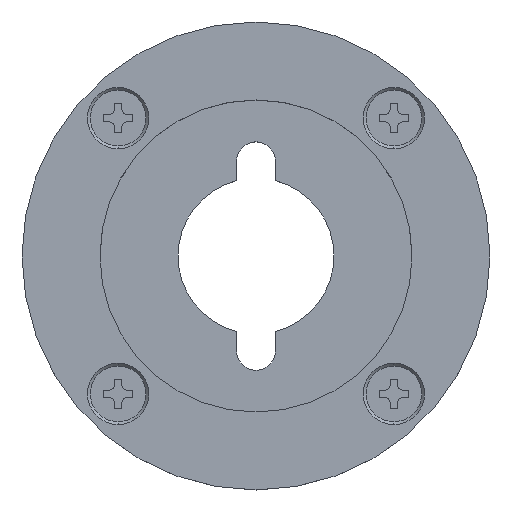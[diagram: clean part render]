
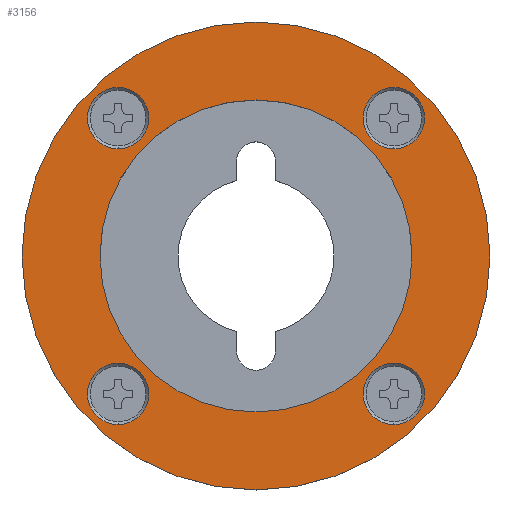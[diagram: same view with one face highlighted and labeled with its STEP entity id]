
A CAD part, top view. The second image highlights one B-rep face of the part: STEP entity #3156.
In plain terms, the highlighted planar face has unit normal (0, 0, 1).
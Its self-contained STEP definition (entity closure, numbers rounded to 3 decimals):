
#13 = CARTESIAN_POINT ( 'NONE',  ( 0., -21., 0. ) ) ;
#28 = CIRCLE ( 'NONE', #2273, 21. ) ;
#31 = CIRCLE ( 'NONE', #1448, 2.75 ) ;
#88 = EDGE_LOOP ( 'NONE', ( #2695, #3461 ) ) ;
#106 = DIRECTION ( 'NONE',  ( 0., 0., 1. ) ) ;
#122 = DIRECTION ( 'NONE',  ( 0., -1., 0. ) ) ;
#154 = DIRECTION ( 'NONE',  ( 0., -1., 0. ) ) ;
#156 = AXIS2_PLACEMENT_3D ( 'NONE', #4111, #2528, #3104 ) ;
#158 = VERTEX_POINT ( 'NONE', #4006 ) ;
#174 = DIRECTION ( 'NONE',  ( 0., 0., 1. ) ) ;
#204 = ORIENTED_EDGE ( 'NONE', *, *, #2803, .F. ) ;
#234 = ORIENTED_EDGE ( 'NONE', *, *, #1768, .F. ) ;
#277 = DIRECTION ( 'NONE',  ( 0., 0., 1. ) ) ;
#353 = EDGE_CURVE ( 'NONE', #2425, #3186, #3836, .T. ) ;
#388 = DIRECTION ( 'NONE',  ( 0., 0., -1. ) ) ;
#408 = ORIENTED_EDGE ( 'NONE', *, *, #3003, .F. ) ;
#428 = FACE_BOUND ( 'NONE', #2673, .T. ) ;
#462 = VERTEX_POINT ( 'NONE', #2896 ) ;
#469 = DIRECTION ( 'NONE',  ( 0., 1., 0. ) ) ;
#485 = CIRCLE ( 'NONE', #2887, 2.75 ) ;
#588 = DIRECTION ( 'NONE',  ( 0., -1., 0. ) ) ;
#599 = ORIENTED_EDGE ( 'NONE', *, *, #738, .T. ) ;
#616 = ORIENTED_EDGE ( 'NONE', *, *, #3877, .T. ) ;
#667 = ORIENTED_EDGE ( 'NONE', *, *, #353, .F. ) ;
#738 = EDGE_CURVE ( 'NONE', #158, #3126, #1381, .T. ) ;
#786 = PLANE ( 'NONE',  #2011 ) ;
#787 = DIRECTION ( 'NONE',  ( 0., 0., -1. ) ) ;
#847 = DIRECTION ( 'NONE',  ( 0., 0., 1. ) ) ;
#865 = EDGE_CURVE ( 'NONE', #2929, #1882, #28, .T. ) ;
#879 = CARTESIAN_POINT ( 'NONE',  ( -12.374, -15.124, 0. ) ) ;
#900 = CARTESIAN_POINT ( 'NONE',  ( -12.374, -9.624, 0. ) ) ;
#904 = CIRCLE ( 'NONE', #156, 2.75 ) ;
#927 = DIRECTION ( 'NONE',  ( 0., 0., -1. ) ) ;
#1019 = CARTESIAN_POINT ( 'NONE',  ( 0., 0., 0. ) ) ;
#1022 = CARTESIAN_POINT ( 'NONE',  ( 0., -14., 0. ) ) ;
#1035 = EDGE_CURVE ( 'NONE', #2489, #3582, #485, .T. ) ;
#1080 = DIRECTION ( 'NONE',  ( 0., 0., -1. ) ) ;
#1093 = CARTESIAN_POINT ( 'NONE',  ( 12.374, 12.374, 0. ) ) ;
#1143 = DIRECTION ( 'NONE',  ( 0., 1., 0. ) ) ;
#1186 = CARTESIAN_POINT ( 'NONE',  ( -12.374, 15.124, 0. ) ) ;
#1324 = EDGE_CURVE ( 'NONE', #1391, #2443, #31, .T. ) ;
#1381 = CIRCLE ( 'NONE', #1658, 14. ) ;
#1391 = VERTEX_POINT ( 'NONE', #2220 ) ;
#1399 = CIRCLE ( 'NONE', #3654, 14. ) ;
#1421 = EDGE_LOOP ( 'NONE', ( #204, #3843 ) ) ;
#1448 = AXIS2_PLACEMENT_3D ( 'NONE', #1093, #106, #122 ) ;
#1464 = ORIENTED_EDGE ( 'NONE', *, *, #865, .F. ) ;
#1473 = CARTESIAN_POINT ( 'NONE',  ( 0., 0., 0. ) ) ;
#1479 = DIRECTION ( 'NONE',  ( 0., -1., 0. ) ) ;
#1540 = CARTESIAN_POINT ( 'NONE',  ( -12.374, -12.374, 0. ) ) ;
#1553 = CARTESIAN_POINT ( 'NONE',  ( 12.374, 9.624, 0. ) ) ;
#1603 = EDGE_CURVE ( 'NONE', #462, #1785, #1729, .T. ) ;
#1610 = CARTESIAN_POINT ( 'NONE',  ( -12.374, 12.374, 0. ) ) ;
#1615 = DIRECTION ( 'NONE',  ( 0., -1., 0. ) ) ;
#1658 = AXIS2_PLACEMENT_3D ( 'NONE', #1019, #388, #1693 ) ;
#1693 = DIRECTION ( 'NONE',  ( 0., 1., 0. ) ) ;
#1729 = CIRCLE ( 'NONE', #3435, 2.75 ) ;
#1768 = EDGE_CURVE ( 'NONE', #3582, #2489, #2690, .T. ) ;
#1774 = DIRECTION ( 'NONE',  ( 0., 0., 1. ) ) ;
#1785 = VERTEX_POINT ( 'NONE', #3190 ) ;
#1837 = CARTESIAN_POINT ( 'NONE',  ( -12.374, 9.624, 0. ) ) ;
#1843 = DIRECTION ( 'NONE',  ( 0., 0., 1. ) ) ;
#1882 = VERTEX_POINT ( 'NONE', #3437 ) ;
#1977 = DIRECTION ( 'NONE',  ( 0., 0., 1. ) ) ;
#2011 = AXIS2_PLACEMENT_3D ( 'NONE', #4019, #1080, #2390 ) ;
#2053 = FACE_BOUND ( 'NONE', #3262, .T. ) ;
#2208 = AXIS2_PLACEMENT_3D ( 'NONE', #3812, #1843, #588 ) ;
#2220 = CARTESIAN_POINT ( 'NONE',  ( 12.374, 15.124, 0. ) ) ;
#2273 = AXIS2_PLACEMENT_3D ( 'NONE', #1473, #4082, #1143 ) ;
#2374 = FACE_BOUND ( 'NONE', #3350, .T. ) ;
#2390 = DIRECTION ( 'NONE',  ( 0., 1., 0. ) ) ;
#2425 = VERTEX_POINT ( 'NONE', #1186 ) ;
#2443 = VERTEX_POINT ( 'NONE', #1553 ) ;
#2489 = VERTEX_POINT ( 'NONE', #879 ) ;
#2519 = ORIENTED_EDGE ( 'NONE', *, *, #3928, .F. ) ;
#2528 = DIRECTION ( 'NONE',  ( 0., 0., 1. ) ) ;
#2564 = CIRCLE ( 'NONE', #3167, 2.75 ) ;
#2673 = EDGE_LOOP ( 'NONE', ( #3464, #234 ) ) ;
#2690 = CIRCLE ( 'NONE', #3849, 2.75 ) ;
#2695 = ORIENTED_EDGE ( 'NONE', *, *, #1603, .F. ) ;
#2803 = EDGE_CURVE ( 'NONE', #2443, #1391, #3364, .T. ) ;
#2809 = AXIS2_PLACEMENT_3D ( 'NONE', #3101, #174, #1479 ) ;
#2837 = EDGE_CURVE ( 'NONE', #1785, #462, #904, .T. ) ;
#2887 = AXIS2_PLACEMENT_3D ( 'NONE', #1540, #847, #4145 ) ;
#2896 = CARTESIAN_POINT ( 'NONE',  ( 12.374, -15.124, 0. ) ) ;
#2897 = CARTESIAN_POINT ( 'NONE',  ( -12.374, -12.374, 0. ) ) ;
#2919 = DIRECTION ( 'NONE',  ( 0., 1., 0. ) ) ;
#2929 = VERTEX_POINT ( 'NONE', #13 ) ;
#3003 = EDGE_CURVE ( 'NONE', #1882, #2929, #3158, .T. ) ;
#3101 = CARTESIAN_POINT ( 'NONE',  ( -12.374, 12.374, 0. ) ) ;
#3104 = DIRECTION ( 'NONE',  ( 0., -1., 0. ) ) ;
#3126 = VERTEX_POINT ( 'NONE', #1022 ) ;
#3156 = ADVANCED_FACE ( 'NONE', ( #2374, #3676, #2053, #3353, #3723, #428 ), #786, .F. ) ;
#3158 = CIRCLE ( 'NONE', #3438, 21. ) ;
#3167 = AXIS2_PLACEMENT_3D ( 'NONE', #1610, #277, #3532 ) ;
#3186 = VERTEX_POINT ( 'NONE', #1837 ) ;
#3190 = CARTESIAN_POINT ( 'NONE',  ( 12.374, -9.624, 0. ) ) ;
#3262 = EDGE_LOOP ( 'NONE', ( #599, #616 ) ) ;
#3350 = EDGE_LOOP ( 'NONE', ( #2519, #667 ) ) ;
#3353 = FACE_BOUND ( 'NONE', #1421, .T. ) ;
#3364 = CIRCLE ( 'NONE', #2208, 2.75 ) ;
#3435 = AXIS2_PLACEMENT_3D ( 'NONE', #4089, #1774, #154 ) ;
#3437 = CARTESIAN_POINT ( 'NONE',  ( 0., 21., 0. ) ) ;
#3438 = AXIS2_PLACEMENT_3D ( 'NONE', #3578, #927, #2919 ) ;
#3461 = ORIENTED_EDGE ( 'NONE', *, *, #2837, .F. ) ;
#3464 = ORIENTED_EDGE ( 'NONE', *, *, #1035, .F. ) ;
#3532 = DIRECTION ( 'NONE',  ( 0., -1., 0. ) ) ;
#3578 = CARTESIAN_POINT ( 'NONE',  ( 0., 0., 0. ) ) ;
#3582 = VERTEX_POINT ( 'NONE', #900 ) ;
#3654 = AXIS2_PLACEMENT_3D ( 'NONE', #3724, #787, #469 ) ;
#3676 = FACE_OUTER_BOUND ( 'NONE', #3761, .T. ) ;
#3723 = FACE_BOUND ( 'NONE', #88, .T. ) ;
#3724 = CARTESIAN_POINT ( 'NONE',  ( 0., 0., 0. ) ) ;
#3761 = EDGE_LOOP ( 'NONE', ( #408, #1464 ) ) ;
#3812 = CARTESIAN_POINT ( 'NONE',  ( 12.374, 12.374, 0. ) ) ;
#3836 = CIRCLE ( 'NONE', #2809, 2.75 ) ;
#3843 = ORIENTED_EDGE ( 'NONE', *, *, #1324, .F. ) ;
#3849 = AXIS2_PLACEMENT_3D ( 'NONE', #2897, #1977, #1615 ) ;
#3877 = EDGE_CURVE ( 'NONE', #3126, #158, #1399, .T. ) ;
#3928 = EDGE_CURVE ( 'NONE', #3186, #2425, #2564, .T. ) ;
#4006 = CARTESIAN_POINT ( 'NONE',  ( 0., 14., 0. ) ) ;
#4019 = CARTESIAN_POINT ( 'NONE',  ( -14., 0., 0. ) ) ;
#4082 = DIRECTION ( 'NONE',  ( 0., 0., -1. ) ) ;
#4089 = CARTESIAN_POINT ( 'NONE',  ( 12.374, -12.374, 0. ) ) ;
#4111 = CARTESIAN_POINT ( 'NONE',  ( 12.374, -12.374, 0. ) ) ;
#4145 = DIRECTION ( 'NONE',  ( 0., -1., 0. ) ) ;
